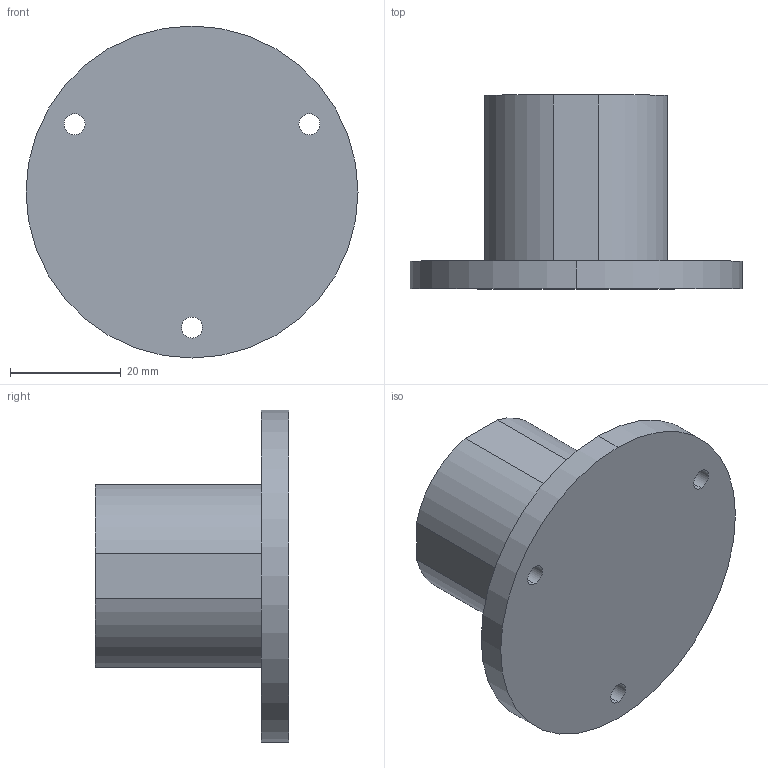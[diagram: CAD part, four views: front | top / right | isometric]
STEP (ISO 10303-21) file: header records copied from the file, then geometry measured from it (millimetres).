
FILE_DESCRIPTION (( 'STEP AP214' ), '1' );
FILE_NAME ('PJ-705.STEP', '2023-09-12T11:25:18', ( 'catia' ), ( 'HP Inc.' ), 'SwSTEP 2.0', 'SolidWorks 2021', '' );
FILE_SCHEMA (( 'AUTOMOTIVE_DESIGN' ));
Length unit declared in the file: millimetre
Products named in the file (1): PJ-705
Bounding box: 60 x 35 x 60 mm (x, y, z)
Volume: 22403.7 mm3; surface area: 12542 mm2
Topology: 1 solids, 1 shells, 22 faces, 54 edges, 36 vertices
Faces by surface type: cylinder 14, plane 8
Entity records: 712 total; most frequent: DIRECTION 128, CARTESIAN_POINT 113, ORIENTED_EDGE 108, EDGE_CURVE 54, AXIS2_PLACEMENT_3D 51, VERTEX_POINT 36, EDGE_LOOP 30, CIRCLE 28
